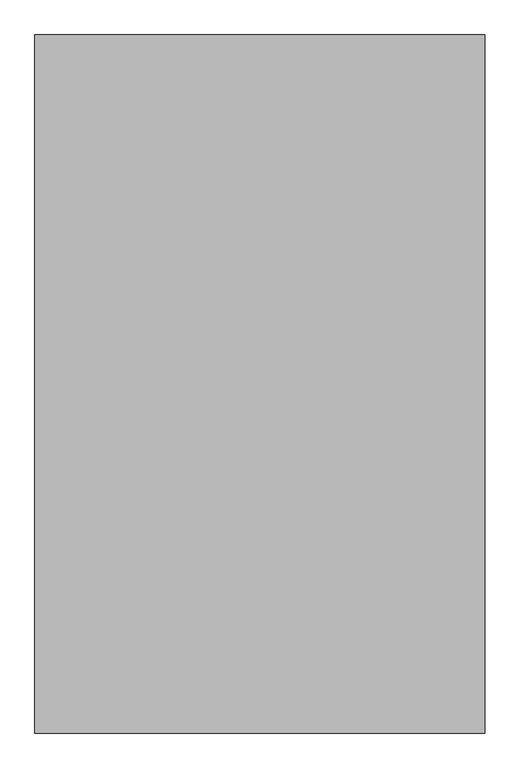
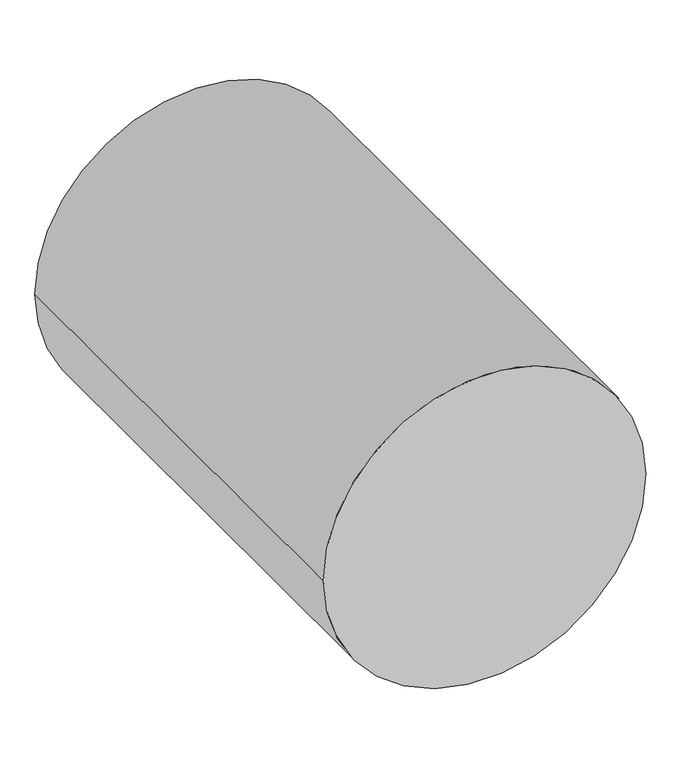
"""IFC4 building model written with IfcOpenShell, lengths in millimetres: proxy geometry, Sickergalerie : Sickergalerie."""

from ifc_helpers import new_model, si_unit, point, frame, frame_2d, origin, place, context, project, spatial, circle_curve, trimmed, segment, composite_curve, outline, extrude, source, transform, mapped, element, save


def generic_models_d01fa1f0(model_context):
    return source(origin(), model_context, "Body", "SweptSolid", [
        extrude(outline(composite_curve([segment(trimmed(circle_curve(frame_2d((-1800.0, 0.0)), 1000.0), [point((-1800.0, -1000.0))], [point((-1800.0, 1000.0))], False, "CARTESIAN"), True, "CONTINUOUS"), segment(trimmed(circle_curve(frame_2d((-1800.0, 0.0)), 1000.0), [point((-1800.0, 1000.0))], [point((-1800.0, -1000.0))], False, "CARTESIAN"), True, "CONTINUOUS")], self_intersect=False)), frame((0.0, -3100.0, 0.0), z_axis=(0.0, 1.0, 0.0), x_axis=(0.0, 0.0, 1.0)), (0.0, 0.0, 1.0), 3100.0),
    ])


if __name__ == "__main__":
    model = new_model("IFC4")
    model_context = context("Model", 3, world=origin())
    ifc_project = project(units=[si_unit("LENGTHUNIT", "METRE", prefix="MILLI")], contexts=[model_context])
    site = spatial("IfcSite", under=ifc_project)
    building = spatial("IfcBuilding", under=site)
    placement = place(None, origin())
    generic_models_shape = generic_models_d01fa1f0(model_context)
    element("IfcBuildingElementProxy", 1, Name="Sickergalerie : Sickergalerie", ObjectType="Sickergalerie : Sickergalerie", at=placement, inside=building, context=model_context, shape_type="MappedRepresentation", body=[
        mapped(generic_models_shape, transform((0.0, 0.0, 0.0), x_axis=(1.0, 0.0, 0.0), y_axis=(0.0, 1.0, 0.0), z_axis=(0.0, 0.0, 1.0))),
    ])
    save(model, "model.ifc")
